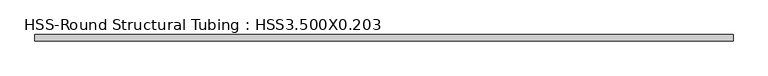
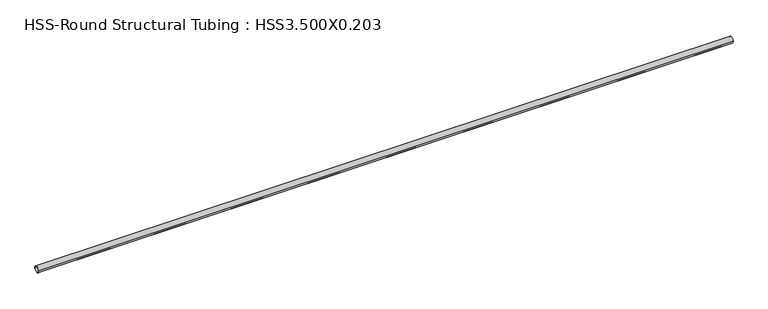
"""IFC4 building model written with IfcOpenShell, lengths in millimetres: member geometry, HSS-Round Structural Tubing : HSS3.500X0.203."""

from ifc_helpers import new_model, si_unit, point, frame, origin, origin_2d, place, context, project, spatial, circle_curve, trimmed, segment, composite_curve, outline, extrude, source, transform, mapped, element, save


def hss_round_structural_tubing_hss3_500x0_203_666bb957(model_context):
    return source(origin(), model_context, "Body", "SweptSolid", [
        extrude(outline(composite_curve([segment(trimmed(circle_curve(origin_2d(), 44.45), [point((-44.45, 0.0))], [point((44.45, 0.0))], False, "CARTESIAN"), True, "CONTINUOUS"), segment(trimmed(circle_curve(origin_2d(), 44.45), [point((44.45, 0.0))], [point((-44.45, 0.0))], False, "CARTESIAN"), True, "CONTINUOUS")], self_intersect=False), holes=[composite_curve([segment(trimmed(circle_curve(origin_2d(), 39.6494), [point((39.6494, 0.0))], [point((-39.6494, 0.0))], True, "CARTESIAN"), True, "CONTINUOUS"), segment(trimmed(circle_curve(origin_2d(), 39.6494), [point((-39.6494, 0.0))], [point((39.6494, 0.0))], True, "CARTESIAN"), True, "CONTINUOUS")], self_intersect=False)]), frame((-4954.3975661, 0.0, 0.0), z_axis=(1.0, 0.0, 0.0), x_axis=(0.0, 1.0, 0.0)), (0.0, 0.0, 1.0), 9912.2000067),
    ])


if __name__ == "__main__":
    model = new_model("IFC4")
    model_context = context("Model", 3, world=origin())
    ifc_project = project(units=[si_unit("LENGTHUNIT", "METRE", prefix="MILLI")], contexts=[model_context])
    site = spatial("IfcSite", under=ifc_project)
    building = spatial("IfcBuilding", under=site)
    placement = place(None, origin())
    hss_round_structural_tubing_hss3_500x0_203_shape = hss_round_structural_tubing_hss3_500x0_203_666bb957(model_context)
    element("IfcMember", 1, ObjectType="HSS-Round Structural Tubing : HSS3.500X0.203", at=placement, inside=building, context=model_context, shape_type="MappedRepresentation", body=[
        mapped(hss_round_structural_tubing_hss3_500x0_203_shape, transform((0.0, 0.0, 0.0), x_axis=(1.0, 0.0, 0.0), y_axis=(0.0, 1.0, 0.0), z_axis=(0.0, 0.0, 1.0))),
    ])
    save(model, "model.ifc")
